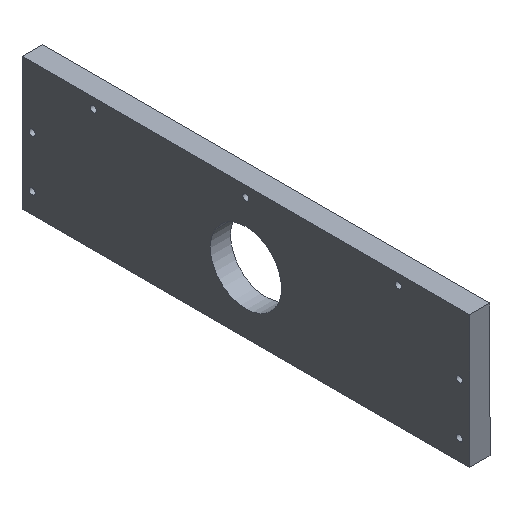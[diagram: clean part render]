
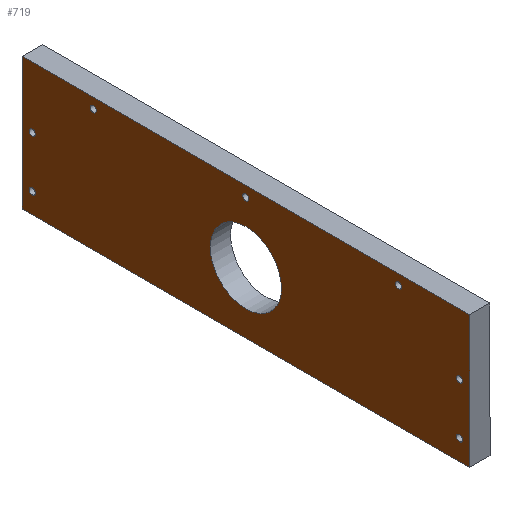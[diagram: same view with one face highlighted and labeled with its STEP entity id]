
A CAD part, isometric view. The second image highlights one B-rep face of the part: STEP entity #719.
In plain terms, the highlighted planar face has unit normal (-1, 0, 0).
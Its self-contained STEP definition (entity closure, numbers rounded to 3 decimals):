
#63=CARTESIAN_POINT('Vertex',(-10.,94.642,21.61)) ;
#77=CARTESIAN_POINT('Vertex',(-10.,125.358,38.39)) ;
#80=CARTESIAN_POINT('Axis2P3D Location',(-10.,110.,30.)) ;
#97=CARTESIAN_POINT('Axis2P3D Location',(-10.,110.,30.)) ;
#284=CARTESIAN_POINT('Line Origine',(-10.,110.,0.)) ;
#288=CARTESIAN_POINT('Vertex',(-10.,0.,0.)) ;
#290=CARTESIAN_POINT('Vertex',(-10.,220.,0.)) ;
#315=CARTESIAN_POINT('Line Origine',(-10.,220.,32.5)) ;
#319=CARTESIAN_POINT('Vertex',(-10.,220.,65.)) ;
#339=CARTESIAN_POINT('Line Origine',(-10.,110.,65.)) ;
#343=CARTESIAN_POINT('Vertex',(-10.,0.,65.)) ;
#363=CARTESIAN_POINT('Line Origine',(-10.,0.,32.5)) ;
#384=CARTESIAN_POINT('Vertex',(-10.,216.316,35.719)) ;
#391=CARTESIAN_POINT('Vertex',(-10.,213.684,34.281)) ;
#394=CARTESIAN_POINT('Axis2P3D Location',(-10.,215.,35.)) ;
#406=CARTESIAN_POINT('Axis2P3D Location',(-10.,215.,35.)) ;
#427=CARTESIAN_POINT('Vertex',(-10.,216.316,10.719)) ;
#434=CARTESIAN_POINT('Vertex',(-10.,213.684,9.281)) ;
#437=CARTESIAN_POINT('Axis2P3D Location',(-10.,215.,10.)) ;
#449=CARTESIAN_POINT('Axis2P3D Location',(-10.,215.,10.)) ;
#470=CARTESIAN_POINT('Vertex',(-10.,6.316,35.719)) ;
#477=CARTESIAN_POINT('Vertex',(-10.,3.684,34.281)) ;
#480=CARTESIAN_POINT('Axis2P3D Location',(-10.,5.,35.)) ;
#492=CARTESIAN_POINT('Axis2P3D Location',(-10.,5.,35.)) ;
#513=CARTESIAN_POINT('Vertex',(-10.,36.316,60.719)) ;
#520=CARTESIAN_POINT('Vertex',(-10.,33.684,59.281)) ;
#523=CARTESIAN_POINT('Axis2P3D Location',(-10.,35.,60.)) ;
#535=CARTESIAN_POINT('Axis2P3D Location',(-10.,35.,60.)) ;
#556=CARTESIAN_POINT('Vertex',(-10.,111.316,60.719)) ;
#563=CARTESIAN_POINT('Vertex',(-10.,108.684,59.281)) ;
#566=CARTESIAN_POINT('Axis2P3D Location',(-10.,110.,60.)) ;
#578=CARTESIAN_POINT('Axis2P3D Location',(-10.,110.,60.)) ;
#599=CARTESIAN_POINT('Vertex',(-10.,183.684,59.281)) ;
#606=CARTESIAN_POINT('Vertex',(-10.,186.316,60.719)) ;
#609=CARTESIAN_POINT('Axis2P3D Location',(-10.,185.,60.)) ;
#621=CARTESIAN_POINT('Axis2P3D Location',(-10.,185.,60.)) ;
#642=CARTESIAN_POINT('Vertex',(-10.,3.684,9.281)) ;
#649=CARTESIAN_POINT('Vertex',(-10.,6.316,10.719)) ;
#652=CARTESIAN_POINT('Axis2P3D Location',(-10.,5.,10.)) ;
#664=CARTESIAN_POINT('Axis2P3D Location',(-10.,5.,10.)) ;
#676=CARTESIAN_POINT('Axis2P3D Location',(-10.,0.,0.)) ;
#81=DIRECTION('Axis2P3D Direction',(1.,0.,-0.)) ;
#98=DIRECTION('Axis2P3D Direction',(1.,0.,-0.)) ;
#285=DIRECTION('Vector Direction',(0.,1.,0.)) ;
#316=DIRECTION('Vector Direction',(0.,0.,1.)) ;
#340=DIRECTION('Vector Direction',(0.,-1.,0.)) ;
#364=DIRECTION('Vector Direction',(0.,0.,-1.)) ;
#395=DIRECTION('Axis2P3D Direction',(1.,0.,0.)) ;
#407=DIRECTION('Axis2P3D Direction',(1.,0.,0.)) ;
#438=DIRECTION('Axis2P3D Direction',(1.,0.,0.)) ;
#450=DIRECTION('Axis2P3D Direction',(1.,0.,0.)) ;
#481=DIRECTION('Axis2P3D Direction',(1.,0.,0.)) ;
#493=DIRECTION('Axis2P3D Direction',(1.,0.,0.)) ;
#524=DIRECTION('Axis2P3D Direction',(1.,0.,0.)) ;
#536=DIRECTION('Axis2P3D Direction',(1.,0.,0.)) ;
#567=DIRECTION('Axis2P3D Direction',(1.,0.,0.)) ;
#579=DIRECTION('Axis2P3D Direction',(1.,0.,0.)) ;
#610=DIRECTION('Axis2P3D Direction',(1.,0.,-0.)) ;
#622=DIRECTION('Axis2P3D Direction',(1.,0.,-0.)) ;
#653=DIRECTION('Axis2P3D Direction',(1.,0.,-0.)) ;
#665=DIRECTION('Axis2P3D Direction',(1.,0.,-0.)) ;
#677=DIRECTION('Axis2P3D Direction',(1.,0.,0.)) ;
#678=DIRECTION('Axis2P3D XDirection',(0.,1.,0.)) ;
#82=AXIS2_PLACEMENT_3D('Circle Axis2P3D',#80,#81,$) ;
#99=AXIS2_PLACEMENT_3D('Circle Axis2P3D',#97,#98,$) ;
#396=AXIS2_PLACEMENT_3D('Circle Axis2P3D',#394,#395,$) ;
#408=AXIS2_PLACEMENT_3D('Circle Axis2P3D',#406,#407,$) ;
#439=AXIS2_PLACEMENT_3D('Circle Axis2P3D',#437,#438,$) ;
#451=AXIS2_PLACEMENT_3D('Circle Axis2P3D',#449,#450,$) ;
#482=AXIS2_PLACEMENT_3D('Circle Axis2P3D',#480,#481,$) ;
#494=AXIS2_PLACEMENT_3D('Circle Axis2P3D',#492,#493,$) ;
#525=AXIS2_PLACEMENT_3D('Circle Axis2P3D',#523,#524,$) ;
#537=AXIS2_PLACEMENT_3D('Circle Axis2P3D',#535,#536,$) ;
#568=AXIS2_PLACEMENT_3D('Circle Axis2P3D',#566,#567,$) ;
#580=AXIS2_PLACEMENT_3D('Circle Axis2P3D',#578,#579,$) ;
#611=AXIS2_PLACEMENT_3D('Circle Axis2P3D',#609,#610,$) ;
#623=AXIS2_PLACEMENT_3D('Circle Axis2P3D',#621,#622,$) ;
#654=AXIS2_PLACEMENT_3D('Circle Axis2P3D',#652,#653,$) ;
#666=AXIS2_PLACEMENT_3D('Circle Axis2P3D',#664,#665,$) ;
#679=AXIS2_PLACEMENT_3D('Plane Axis2P3D',#676,#677,#678) ;
#682=ORIENTED_EDGE('',*,*,#367,.F.) ;
#683=ORIENTED_EDGE('',*,*,#345,.F.) ;
#684=ORIENTED_EDGE('',*,*,#321,.F.) ;
#685=ORIENTED_EDGE('',*,*,#292,.F.) ;
#688=ORIENTED_EDGE('',*,*,#84,.T.) ;
#689=ORIENTED_EDGE('',*,*,#101,.T.) ;
#692=ORIENTED_EDGE('',*,*,#656,.T.) ;
#693=ORIENTED_EDGE('',*,*,#668,.T.) ;
#696=ORIENTED_EDGE('',*,*,#613,.T.) ;
#697=ORIENTED_EDGE('',*,*,#625,.T.) ;
#700=ORIENTED_EDGE('',*,*,#570,.T.) ;
#701=ORIENTED_EDGE('',*,*,#582,.T.) ;
#704=ORIENTED_EDGE('',*,*,#527,.T.) ;
#705=ORIENTED_EDGE('',*,*,#539,.T.) ;
#708=ORIENTED_EDGE('',*,*,#484,.T.) ;
#709=ORIENTED_EDGE('',*,*,#496,.T.) ;
#712=ORIENTED_EDGE('',*,*,#441,.T.) ;
#713=ORIENTED_EDGE('',*,*,#453,.T.) ;
#716=ORIENTED_EDGE('',*,*,#398,.T.) ;
#717=ORIENTED_EDGE('',*,*,#410,.T.) ;
#690=FACE_BOUND('',#687,.T.) ;
#694=FACE_BOUND('',#691,.T.) ;
#698=FACE_BOUND('',#695,.T.) ;
#702=FACE_BOUND('',#699,.T.) ;
#706=FACE_BOUND('',#703,.T.) ;
#710=FACE_BOUND('',#707,.T.) ;
#714=FACE_BOUND('',#711,.T.) ;
#718=FACE_BOUND('',#715,.T.) ;
#286=VECTOR('Line Direction',#285,1.) ;
#317=VECTOR('Line Direction',#316,1.) ;
#341=VECTOR('Line Direction',#340,1.) ;
#365=VECTOR('Line Direction',#364,1.) ;
#719=ADVANCED_FACE('Corps principal',(#686,#690,#694,#698,#702,#706,#710,#714,#718),#680,.F.) ;
#83=CIRCLE('generated circle',#82,17.5) ;
#100=CIRCLE('generated circle',#99,17.5) ;
#397=CIRCLE('generated circle',#396,1.5) ;
#409=CIRCLE('generated circle',#408,1.5) ;
#440=CIRCLE('generated circle',#439,1.5) ;
#452=CIRCLE('generated circle',#451,1.5) ;
#483=CIRCLE('generated circle',#482,1.5) ;
#495=CIRCLE('generated circle',#494,1.5) ;
#526=CIRCLE('generated circle',#525,1.5) ;
#538=CIRCLE('generated circle',#537,1.5) ;
#569=CIRCLE('generated circle',#568,1.5) ;
#581=CIRCLE('generated circle',#580,1.5) ;
#612=CIRCLE('generated circle',#611,1.5) ;
#624=CIRCLE('generated circle',#623,1.5) ;
#655=CIRCLE('generated circle',#654,1.5) ;
#667=CIRCLE('generated circle',#666,1.5) ;
#84=EDGE_CURVE('',#64,#78,#83,.T.) ;
#101=EDGE_CURVE('',#78,#64,#100,.T.) ;
#292=EDGE_CURVE('',#289,#291,#287,.T.) ;
#321=EDGE_CURVE('',#291,#320,#318,.T.) ;
#345=EDGE_CURVE('',#320,#344,#342,.T.) ;
#367=EDGE_CURVE('',#344,#289,#366,.T.) ;
#398=EDGE_CURVE('',#385,#392,#397,.T.) ;
#410=EDGE_CURVE('',#392,#385,#409,.T.) ;
#441=EDGE_CURVE('',#428,#435,#440,.T.) ;
#453=EDGE_CURVE('',#435,#428,#452,.T.) ;
#484=EDGE_CURVE('',#471,#478,#483,.T.) ;
#496=EDGE_CURVE('',#478,#471,#495,.T.) ;
#527=EDGE_CURVE('',#514,#521,#526,.T.) ;
#539=EDGE_CURVE('',#521,#514,#538,.T.) ;
#570=EDGE_CURVE('',#557,#564,#569,.T.) ;
#582=EDGE_CURVE('',#564,#557,#581,.T.) ;
#613=EDGE_CURVE('',#600,#607,#612,.T.) ;
#625=EDGE_CURVE('',#607,#600,#624,.T.) ;
#656=EDGE_CURVE('',#643,#650,#655,.T.) ;
#668=EDGE_CURVE('',#650,#643,#667,.T.) ;
#681=EDGE_LOOP('',(#682,#683,#684,#685)) ;
#687=EDGE_LOOP('',(#688,#689)) ;
#691=EDGE_LOOP('',(#692,#693)) ;
#695=EDGE_LOOP('',(#696,#697)) ;
#699=EDGE_LOOP('',(#700,#701)) ;
#703=EDGE_LOOP('',(#704,#705)) ;
#707=EDGE_LOOP('',(#708,#709)) ;
#711=EDGE_LOOP('',(#712,#713)) ;
#715=EDGE_LOOP('',(#716,#717)) ;
#686=FACE_OUTER_BOUND('',#681,.T.) ;
#287=LINE('Line',#284,#286) ;
#318=LINE('Line',#315,#317) ;
#342=LINE('Line',#339,#341) ;
#366=LINE('Line',#363,#365) ;
#680=PLANE('Plane',#679) ;
#64=VERTEX_POINT('',#63) ;
#78=VERTEX_POINT('',#77) ;
#289=VERTEX_POINT('',#288) ;
#291=VERTEX_POINT('',#290) ;
#320=VERTEX_POINT('',#319) ;
#344=VERTEX_POINT('',#343) ;
#385=VERTEX_POINT('',#384) ;
#392=VERTEX_POINT('',#391) ;
#428=VERTEX_POINT('',#427) ;
#435=VERTEX_POINT('',#434) ;
#471=VERTEX_POINT('',#470) ;
#478=VERTEX_POINT('',#477) ;
#514=VERTEX_POINT('',#513) ;
#521=VERTEX_POINT('',#520) ;
#557=VERTEX_POINT('',#556) ;
#564=VERTEX_POINT('',#563) ;
#600=VERTEX_POINT('',#599) ;
#607=VERTEX_POINT('',#606) ;
#643=VERTEX_POINT('',#642) ;
#650=VERTEX_POINT('',#649) ;
